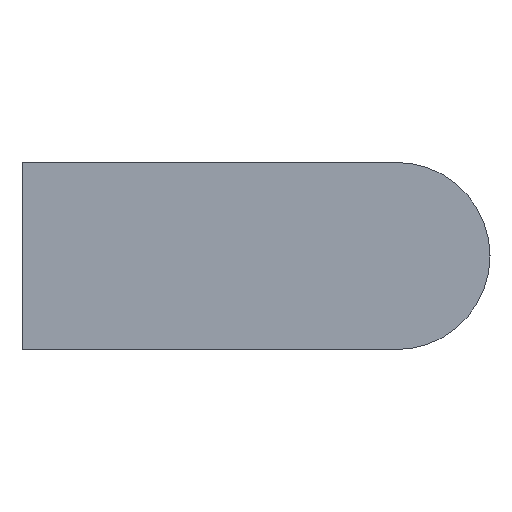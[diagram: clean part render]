
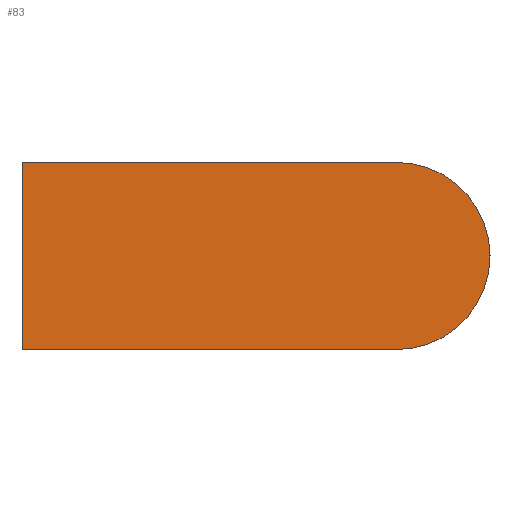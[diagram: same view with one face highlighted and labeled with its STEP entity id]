
A CAD part, left-side view. The second image highlights one B-rep face of the part: STEP entity #83.
In plain terms, the highlighted planar face has unit normal (-1, 0, 0).
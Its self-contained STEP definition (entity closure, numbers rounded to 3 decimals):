
#83 = ADVANCED_FACE( '', ( #168 ), #169, .F. );
#168 = FACE_OUTER_BOUND( '', #245, .T. );
#169 = PLANE( '', #246 );
#245 = EDGE_LOOP( '', ( #396, #397, #398, #399 ) );
#246 = AXIS2_PLACEMENT_3D( '', #400, #401, #402 );
#396 = ORIENTED_EDGE( '', *, *, #438, .F. );
#397 = ORIENTED_EDGE( '', *, *, #431, .F. );
#398 = ORIENTED_EDGE( '', *, *, #454, .F. );
#399 = ORIENTED_EDGE( '', *, *, #426, .F. );
#400 = CARTESIAN_POINT( '', ( -6., -28., 0. ) );
#401 = DIRECTION( '', ( 1., 0., 0. ) );
#402 = DIRECTION( '', ( 0., 0., -1. ) );
#426 = EDGE_CURVE( '', #495, #496, #497, .T. );
#431 = EDGE_CURVE( '', #504, #505, #506, .T. );
#438 = EDGE_CURVE( '', #505, #495, #516, .T. );
#454 = EDGE_CURVE( '', #496, #504, #536, .T. );
#495 = VERTEX_POINT( '', #583 );
#496 = VERTEX_POINT( '', #584 );
#497 = CIRCLE( '', #585, 7. );
#504 = VERTEX_POINT( '', #594 );
#505 = VERTEX_POINT( '', #595 );
#506 = LINE( '', #596, #597 );
#516 = LINE( '', #610, #611 );
#536 = LINE( '', #638, #639 );
#583 = CARTESIAN_POINT( '', ( -6., -28., 7. ) );
#584 = CARTESIAN_POINT( '', ( -6., -28., -7. ) );
#585 = AXIS2_PLACEMENT_3D( '', #688, #689, #690 );
#594 = CARTESIAN_POINT( '', ( -6., 0., -7. ) );
#595 = CARTESIAN_POINT( '', ( -6., 0., 7. ) );
#596 = CARTESIAN_POINT( '', ( -6., 0., -7. ) );
#597 = VECTOR( '', #696, 1000. );
#610 = CARTESIAN_POINT( '', ( -6., 0., 7. ) );
#611 = VECTOR( '', #703, 1000. );
#638 = CARTESIAN_POINT( '', ( -6., -28., -7. ) );
#639 = VECTOR( '', #717, 1000. );
#688 = CARTESIAN_POINT( '', ( -6., -28., 0. ) );
#689 = DIRECTION( '', ( 1., 0., 0. ) );
#690 = DIRECTION( '', ( 0., 0., -1. ) );
#696 = DIRECTION( '', ( 0., 0., 1. ) );
#703 = DIRECTION( '', ( 0., -1., 0. ) );
#717 = DIRECTION( '', ( 0., 1., 0. ) );
